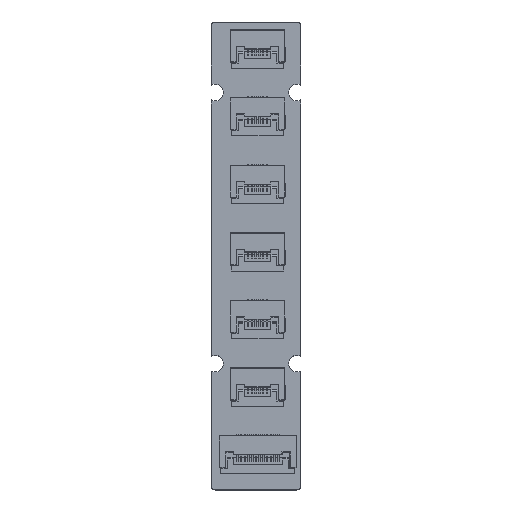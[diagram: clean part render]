
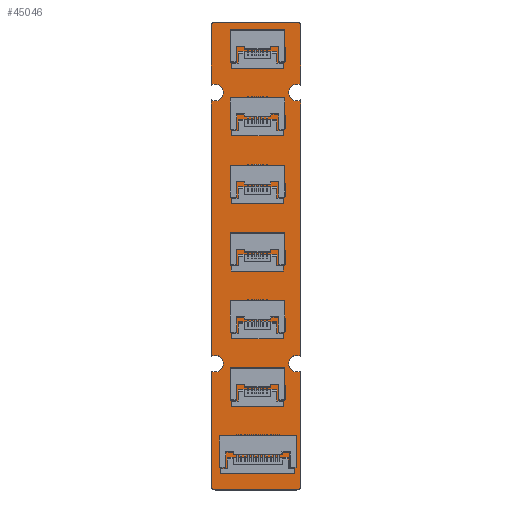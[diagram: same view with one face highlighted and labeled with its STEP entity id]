
A CAD part, top view. The second image highlights one B-rep face of the part: STEP entity #45046.
In plain terms, the highlighted planar face has unit normal (0, 0, 1).
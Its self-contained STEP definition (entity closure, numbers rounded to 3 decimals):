
#44517 = VERTEX_POINT('',#44518);
#44518 = CARTESIAN_POINT('',(159.5,-42.,1.51));
#44524 = EDGE_CURVE('',#44517,#44525,#44527,.T.);
#44525 = VERTEX_POINT('',#44526);
#44526 = CARTESIAN_POINT('',(160.,-42.5,1.51));
#44527 = CIRCLE('',#44528,0.5);
#44528 = AXIS2_PLACEMENT_3D('',#44529,#44530,#44531);
#44529 = CARTESIAN_POINT('',(159.5,-42.5,1.51));
#44530 = DIRECTION('',(0.,0.,-1.));
#44531 = DIRECTION('',(0.,1.,0.));
#44557 = EDGE_CURVE('',#44525,#44558,#44560,.T.);
#44558 = VERTEX_POINT('',#44559);
#44559 = CARTESIAN_POINT('',(160.,-50.5,1.51));
#44560 = LINE('',#44561,#44562);
#44561 = CARTESIAN_POINT('',(160.,-42.5,1.51));
#44562 = VECTOR('',#44563,1.);
#44563 = DIRECTION('',(0.,-1.,0.));
#44588 = EDGE_CURVE('',#44558,#44589,#44591,.T.);
#44589 = VERTEX_POINT('',#44590);
#44590 = CARTESIAN_POINT('',(160.,-52.5,1.51));
#44591 = CIRCLE('',#44592,1.118);
#44592 = AXIS2_PLACEMENT_3D('',#44593,#44594,#44595);
#44593 = CARTESIAN_POINT('',(159.5,-51.5,1.51));
#44594 = DIRECTION('',(0.,0.,1.));
#44595 = DIRECTION('',(0.447,0.894,-0.));
#44621 = EDGE_CURVE('',#44589,#44622,#44624,.T.);
#44622 = VERTEX_POINT('',#44623);
#44623 = CARTESIAN_POINT('',(160.,-87.,1.51));
#44624 = LINE('',#44625,#44626);
#44625 = CARTESIAN_POINT('',(160.,-52.5,1.51));
#44626 = VECTOR('',#44627,1.);
#44627 = DIRECTION('',(0.,-1.,0.));
#44652 = EDGE_CURVE('',#44622,#44653,#44655,.T.);
#44653 = VERTEX_POINT('',#44654);
#44654 = CARTESIAN_POINT('',(160.,-89.,1.51));
#44655 = CIRCLE('',#44656,1.118);
#44656 = AXIS2_PLACEMENT_3D('',#44657,#44658,#44659);
#44657 = CARTESIAN_POINT('',(159.5,-88.,1.51));
#44658 = DIRECTION('',(0.,0.,1.));
#44659 = DIRECTION('',(0.447,0.894,-0.));
#44685 = EDGE_CURVE('',#44653,#44686,#44688,.T.);
#44686 = VERTEX_POINT('',#44687);
#44687 = CARTESIAN_POINT('',(160.,-104.5,1.51));
#44688 = LINE('',#44689,#44690);
#44689 = CARTESIAN_POINT('',(160.,-89.,1.51));
#44690 = VECTOR('',#44691,1.);
#44691 = DIRECTION('',(0.,-1.,0.));
#44716 = EDGE_CURVE('',#44686,#44717,#44719,.T.);
#44717 = VERTEX_POINT('',#44718);
#44718 = CARTESIAN_POINT('',(159.5,-105.,1.51));
#44719 = CIRCLE('',#44720,0.5);
#44720 = AXIS2_PLACEMENT_3D('',#44721,#44722,#44723);
#44721 = CARTESIAN_POINT('',(159.5,-104.5,1.51));
#44722 = DIRECTION('',(0.,0.,-1.));
#44723 = DIRECTION('',(1.,0.,0.));
#44749 = EDGE_CURVE('',#44717,#44750,#44752,.T.);
#44750 = VERTEX_POINT('',#44751);
#44751 = CARTESIAN_POINT('',(148.5,-105.,1.51));
#44752 = LINE('',#44753,#44754);
#44753 = CARTESIAN_POINT('',(159.5,-105.,1.51));
#44754 = VECTOR('',#44755,1.);
#44755 = DIRECTION('',(-1.,0.,0.));
#44780 = EDGE_CURVE('',#44750,#44781,#44783,.T.);
#44781 = VERTEX_POINT('',#44782);
#44782 = CARTESIAN_POINT('',(148.,-104.5,1.51));
#44783 = CIRCLE('',#44784,0.5);
#44784 = AXIS2_PLACEMENT_3D('',#44785,#44786,#44787);
#44785 = CARTESIAN_POINT('',(148.5,-104.5,1.51));
#44786 = DIRECTION('',(0.,0.,-1.));
#44787 = DIRECTION('',(0.,-1.,-0.));
#44813 = EDGE_CURVE('',#44781,#44814,#44816,.T.);
#44814 = VERTEX_POINT('',#44815);
#44815 = CARTESIAN_POINT('',(148.,-89.,1.51));
#44816 = LINE('',#44817,#44818);
#44817 = CARTESIAN_POINT('',(148.,-104.5,1.51));
#44818 = VECTOR('',#44819,1.);
#44819 = DIRECTION('',(0.,1.,0.));
#44844 = EDGE_CURVE('',#44814,#44845,#44847,.T.);
#44845 = VERTEX_POINT('',#44846);
#44846 = CARTESIAN_POINT('',(148.,-87.,1.51));
#44847 = CIRCLE('',#44848,1.118);
#44848 = AXIS2_PLACEMENT_3D('',#44849,#44850,#44851);
#44849 = CARTESIAN_POINT('',(148.5,-88.,1.51));
#44850 = DIRECTION('',(0.,0.,1.));
#44851 = DIRECTION('',(-0.447,-0.894,0.));
#44877 = EDGE_CURVE('',#44845,#44878,#44880,.T.);
#44878 = VERTEX_POINT('',#44879);
#44879 = CARTESIAN_POINT('',(148.,-52.5,1.51));
#44880 = LINE('',#44881,#44882);
#44881 = CARTESIAN_POINT('',(148.,-87.,1.51));
#44882 = VECTOR('',#44883,1.);
#44883 = DIRECTION('',(0.,1.,0.));
#44908 = EDGE_CURVE('',#44878,#44909,#44911,.T.);
#44909 = VERTEX_POINT('',#44910);
#44910 = CARTESIAN_POINT('',(148.,-50.5,1.51));
#44911 = CIRCLE('',#44912,1.118);
#44912 = AXIS2_PLACEMENT_3D('',#44913,#44914,#44915);
#44913 = CARTESIAN_POINT('',(148.5,-51.5,1.51));
#44914 = DIRECTION('',(0.,0.,1.));
#44915 = DIRECTION('',(-0.447,-0.894,0.));
#44941 = EDGE_CURVE('',#44909,#44942,#44944,.T.);
#44942 = VERTEX_POINT('',#44943);
#44943 = CARTESIAN_POINT('',(148.,-42.5,1.51));
#44944 = LINE('',#44945,#44946);
#44945 = CARTESIAN_POINT('',(148.,-50.5,1.51));
#44946 = VECTOR('',#44947,1.);
#44947 = DIRECTION('',(0.,1.,0.));
#44972 = EDGE_CURVE('',#44942,#44973,#44975,.T.);
#44973 = VERTEX_POINT('',#44974);
#44974 = CARTESIAN_POINT('',(148.5,-42.,1.51));
#44975 = CIRCLE('',#44976,0.5);
#44976 = AXIS2_PLACEMENT_3D('',#44977,#44978,#44979);
#44977 = CARTESIAN_POINT('',(148.5,-42.5,1.51));
#44978 = DIRECTION('',(0.,0.,-1.));
#44979 = DIRECTION('',(-1.,0.,0.));
#45005 = EDGE_CURVE('',#44973,#44517,#45006,.T.);
#45006 = LINE('',#45007,#45008);
#45007 = CARTESIAN_POINT('',(148.5,-42.,1.51));
#45008 = VECTOR('',#45009,1.);
#45009 = DIRECTION('',(1.,0.,0.));
#45046 = ADVANCED_FACE('',(#45047),#45065,.T.);
#45047 = FACE_BOUND('',#45048,.F.);
#45048 = EDGE_LOOP('',(#45049,#45050,#45051,#45052,#45053,#45054,#45055,
    #45056,#45057,#45058,#45059,#45060,#45061,#45062,#45063,#45064));
#45049 = ORIENTED_EDGE('',*,*,#44524,.T.);
#45050 = ORIENTED_EDGE('',*,*,#44557,.T.);
#45051 = ORIENTED_EDGE('',*,*,#44588,.T.);
#45052 = ORIENTED_EDGE('',*,*,#44621,.T.);
#45053 = ORIENTED_EDGE('',*,*,#44652,.T.);
#45054 = ORIENTED_EDGE('',*,*,#44685,.T.);
#45055 = ORIENTED_EDGE('',*,*,#44716,.T.);
#45056 = ORIENTED_EDGE('',*,*,#44749,.T.);
#45057 = ORIENTED_EDGE('',*,*,#44780,.T.);
#45058 = ORIENTED_EDGE('',*,*,#44813,.T.);
#45059 = ORIENTED_EDGE('',*,*,#44844,.T.);
#45060 = ORIENTED_EDGE('',*,*,#44877,.T.);
#45061 = ORIENTED_EDGE('',*,*,#44908,.T.);
#45062 = ORIENTED_EDGE('',*,*,#44941,.T.);
#45063 = ORIENTED_EDGE('',*,*,#44972,.T.);
#45064 = ORIENTED_EDGE('',*,*,#45005,.T.);
#45065 = PLANE('',#45066);
#45066 = AXIS2_PLACEMENT_3D('',#45067,#45068,#45069);
#45067 = CARTESIAN_POINT('',(0.,0.,1.51));
#45068 = DIRECTION('',(0.,0.,1.));
#45069 = DIRECTION('',(1.,0.,-0.));
